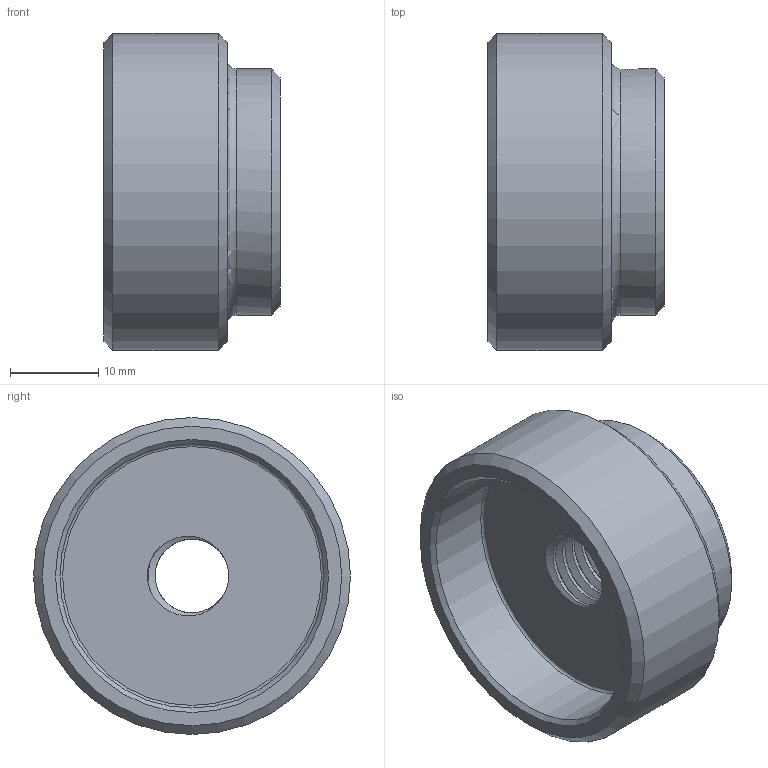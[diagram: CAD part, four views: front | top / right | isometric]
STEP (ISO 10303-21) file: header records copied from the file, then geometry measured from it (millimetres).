
FILE_DESCRIPTION(('STEP AP203'), '1');
FILE_NAME('À00080.1101', '2025-03-13T10:09:18', ('1'), (''), 'C3D Converter', 'C3D Toolkit', '');
FILE_SCHEMA(('CONFIG_CONTROL_DESIGN'));
Length unit declared in the file: millimetre
Bounding box: 20 x 36 x 36 mm (x, y, z)
Volume: 11291.6 mm3; surface area: 5124.7 mm2
Topology: 1 solids, 1 shells, 31 faces, 82 edges, 56 vertices
Faces by surface type: cylinder 11, bspline 8, cone 6, plane 4, torus 2
Full cylindrical faces by diameter (mm): 2.9 x1, 28 x1, 30 x1, 36 x1
Entity records: 8001 total; most frequent: CARTESIAN_POINT 7120, ORIENTED_EDGE 134, DIRECTION 82, EDGE_CURVE 67, VERTEX_POINT 50, B_SPLINE_CURVE_WITH_KNOTS 48, EDGE_LOOP 45, AXIS2_PLACEMENT_3D 39
